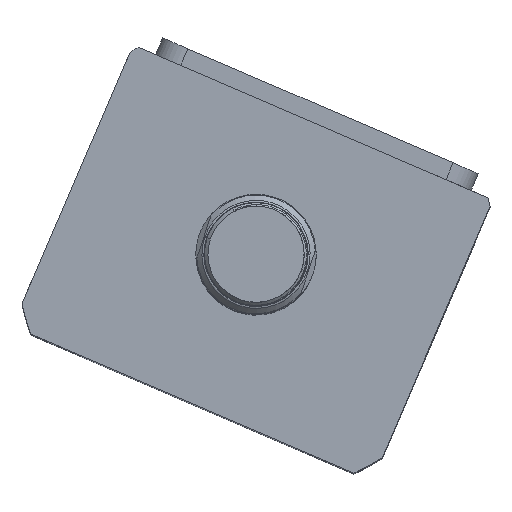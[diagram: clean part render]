
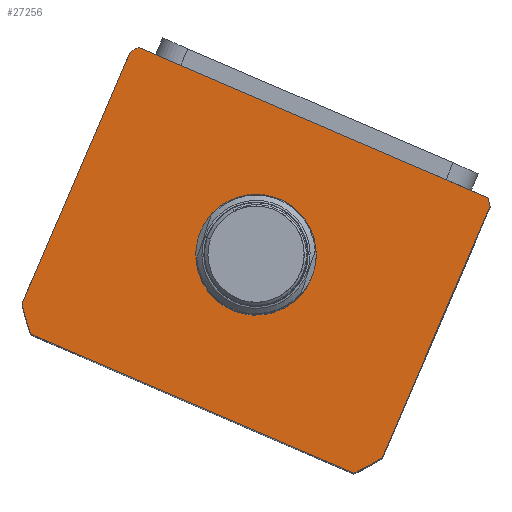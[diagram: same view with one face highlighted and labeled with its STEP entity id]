
A CAD part, top view. The second image highlights one B-rep face of the part: STEP entity #27256.
In plain terms, the highlighted planar face has unit normal (0, 0, 1) as drawn and (0, 0, -1) by its records, which use the part's own axes.
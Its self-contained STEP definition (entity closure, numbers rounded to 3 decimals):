
#968 = VERTEX_POINT ( 'NONE', #17688 ) ;
#1548 = CARTESIAN_POINT ( 'NONE',  ( 0., -59.497, 0. ) ) ;
#1609 = CARTESIAN_POINT ( 'NONE',  ( -57., -17.497, 0. ) ) ;
#1905 = DIRECTION ( 'NONE',  ( 1., 0., 0. ) ) ;
#1970 = ORIENTED_EDGE ( 'NONE', *, *, #20835, .T. ) ;
#2628 = VECTOR ( 'NONE', #24075, 1000. ) ;
#2849 = VERTEX_POINT ( 'NONE', #10362 ) ;
#2872 = DIRECTION ( 'NONE',  ( 0., 0., 1. ) ) ;
#2958 = CIRCLE ( 'NONE', #20443, 69.5 ) ;
#3244 = CARTESIAN_POINT ( 'NONE',  ( 0., 0., 0. ) ) ;
#3436 = CARTESIAN_POINT ( 'NONE',  ( -57., -99.262, 0. ) ) ;
#3729 = DIRECTION ( 'NONE',  ( 1., 0., 0. ) ) ;
#3737 = EDGE_LOOP ( 'NONE', ( #7557, #24959, #15847, #13007, #8891, #27815, #22141, #26105 ) ) ;
#3931 = EDGE_CURVE ( 'NONE', #21987, #4386, #2958, .T. ) ;
#4243 = AXIS2_PLACEMENT_3D ( 'NONE', #24518, #11648, #26715 ) ;
#4386 = VERTEX_POINT ( 'NONE', #23829 ) ;
#4629 = EDGE_CURVE ( 'NONE', #5400, #21722, #8362, .T. ) ;
#5400 = VERTEX_POINT ( 'NONE', #8446 ) ;
#5417 = DIRECTION ( 'NONE',  ( 1., 0., 0. ) ) ;
#5419 = ORIENTED_EDGE ( 'NONE', *, *, #7641, .T. ) ;
#6298 = EDGE_CURVE ( 'NONE', #10753, #5400, #22754, .T. ) ;
#6329 = FACE_OUTER_BOUND ( 'NONE', #3737, .T. ) ;
#6507 = VECTOR ( 'NONE', #27418, 1000. ) ;
#6894 = CARTESIAN_POINT ( 'NONE',  ( -57., -17.497, 0. ) ) ;
#7557 = ORIENTED_EDGE ( 'NONE', *, *, #6298, .F. ) ;
#7641 = EDGE_CURVE ( 'NONE', #2849, #21271, #19705, .T. ) ;
#8362 = LINE ( 'NONE', #6894, #2628 ) ;
#8446 = CARTESIAN_POINT ( 'NONE',  ( 55.374, -17.497, 0. ) ) ;
#8891 = ORIENTED_EDGE ( 'NONE', *, *, #3931, .F. ) ;
#10024 = CARTESIAN_POINT ( 'NONE',  ( 0., -59.497, 0. ) ) ;
#10081 = EDGE_CURVE ( 'NONE', #21722, #18307, #14227, .T. ) ;
#10105 = CARTESIAN_POINT ( 'NONE',  ( 17.5, -59.497, 0. ) ) ;
#10271 = EDGE_CURVE ( 'NONE', #18307, #21987, #17937, .T. ) ;
#10362 = CARTESIAN_POINT ( 'NONE',  ( -17.5, -59.497, 0. ) ) ;
#10497 = AXIS2_PLACEMENT_3D ( 'NONE', #27713, #14792, #1905 ) ;
#10753 = VERTEX_POINT ( 'NONE', #16255 ) ;
#11326 = DIRECTION ( 'NONE',  ( 0., 0., 1. ) ) ;
#11608 = DIRECTION ( 'NONE',  ( 0., 1., 0. ) ) ;
#11648 = DIRECTION ( 'NONE',  ( 0., 0., 1. ) ) ;
#11826 = VECTOR ( 'NONE', #11608, 1000. ) ;
#12177 = DIRECTION ( 'NONE',  ( 1., 0., 0. ) ) ;
#13007 = ORIENTED_EDGE ( 'NONE', *, *, #27942, .F. ) ;
#13763 = AXIS2_PLACEMENT_3D ( 'NONE', #3244, #18295, #5417 ) ;
#14227 = CIRCLE ( 'NONE', #23127, 69.5 ) ;
#14489 = CARTESIAN_POINT ( 'NONE',  ( -57., -19.732, 0. ) ) ;
#14792 = DIRECTION ( 'NONE',  ( 0., 0., 1. ) ) ;
#15131 = CARTESIAN_POINT ( 'NONE',  ( -55.374, -17.497, 0. ) ) ;
#15750 = CARTESIAN_POINT ( 'NONE',  ( 0., -59.497, 0. ) ) ;
#15847 = ORIENTED_EDGE ( 'NONE', *, *, #21380, .F. ) ;
#15874 = VERTEX_POINT ( 'NONE', #21381 ) ;
#16255 = CARTESIAN_POINT ( 'NONE',  ( 57., -19.732, 0. ) ) ;
#16260 = EDGE_CURVE ( 'NONE', #968, #10753, #17545, .T. ) ;
#16614 = DIRECTION ( 'NONE',  ( 0., 0., 1. ) ) ;
#17545 = LINE ( 'NONE', #26677, #11826 ) ;
#17688 = CARTESIAN_POINT ( 'NONE',  ( 57., -99.262, 0. ) ) ;
#17922 = DIRECTION ( 'NONE',  ( 1., 0., 0. ) ) ;
#17937 = LINE ( 'NONE', #1609, #6507 ) ;
#18295 = DIRECTION ( 'NONE',  ( 0., 0., 1. ) ) ;
#18307 = VERTEX_POINT ( 'NONE', #14489 ) ;
#19084 = CARTESIAN_POINT ( 'NONE',  ( -57., -106.497, 0. ) ) ;
#19705 = CIRCLE ( 'NONE', #27707, 17.5 ) ;
#20213 = CIRCLE ( 'NONE', #27413, 17.5 ) ;
#20443 = AXIS2_PLACEMENT_3D ( 'NONE', #15750, #2872, #17922 ) ;
#20835 = EDGE_CURVE ( 'NONE', #21271, #2849, #20213, .T. ) ;
#21238 = DIRECTION ( 'NONE',  ( 1., 0., 0. ) ) ;
#21271 = VERTEX_POINT ( 'NONE', #10105 ) ;
#21380 = EDGE_CURVE ( 'NONE', #15874, #968, #26981, .T. ) ;
#21381 = CARTESIAN_POINT ( 'NONE',  ( 51.198, -106.497, 0. ) ) ;
#21722 = VERTEX_POINT ( 'NONE', #15131 ) ;
#21987 = VERTEX_POINT ( 'NONE', #3436 ) ;
#22141 = ORIENTED_EDGE ( 'NONE', *, *, #10081, .F. ) ;
#22754 = CIRCLE ( 'NONE', #4243, 69.5 ) ;
#22792 = VECTOR ( 'NONE', #21238, 1000. ) ;
#23125 = LINE ( 'NONE', #19084, #22792 ) ;
#23127 = AXIS2_PLACEMENT_3D ( 'NONE', #1548, #16614, #3729 ) ;
#23473 = FACE_BOUND ( 'NONE', #27769, .T. ) ;
#23829 = CARTESIAN_POINT ( 'NONE',  ( -51.198, -106.497, 0. ) ) ;
#24075 = DIRECTION ( 'NONE',  ( -1., 0., 0. ) ) ;
#24192 = CARTESIAN_POINT ( 'NONE',  ( 0., -59.497, 0. ) ) ;
#24518 = CARTESIAN_POINT ( 'NONE',  ( 0., -59.497, 0. ) ) ;
#24692 = PLANE ( 'NONE',  #13763 ) ;
#24959 = ORIENTED_EDGE ( 'NONE', *, *, #16260, .F. ) ;
#25067 = DIRECTION ( 'NONE',  ( 0., 0., 1. ) ) ;
#26105 = ORIENTED_EDGE ( 'NONE', *, *, #4629, .F. ) ;
#26386 = DIRECTION ( 'NONE',  ( 1., 0., 0. ) ) ;
#26677 = CARTESIAN_POINT ( 'NONE',  ( 57., -17.497, 0. ) ) ;
#26715 = DIRECTION ( 'NONE',  ( 1., 0., 0. ) ) ;
#26981 = CIRCLE ( 'NONE', #10497, 69.5 ) ;
#27256 = ADVANCED_FACE ( 'NONE', ( #23473, #6329 ), #24692, .F. ) ;
#27413 = AXIS2_PLACEMENT_3D ( 'NONE', #24192, #11326, #26386 ) ;
#27418 = DIRECTION ( 'NONE',  ( 0., -1., 0. ) ) ;
#27707 = AXIS2_PLACEMENT_3D ( 'NONE', #10024, #25067, #12177 ) ;
#27713 = CARTESIAN_POINT ( 'NONE',  ( 0., -59.497, 0. ) ) ;
#27769 = EDGE_LOOP ( 'NONE', ( #1970, #5419 ) ) ;
#27815 = ORIENTED_EDGE ( 'NONE', *, *, #10271, .F. ) ;
#27942 = EDGE_CURVE ( 'NONE', #4386, #15874, #23125, .T. ) ;
